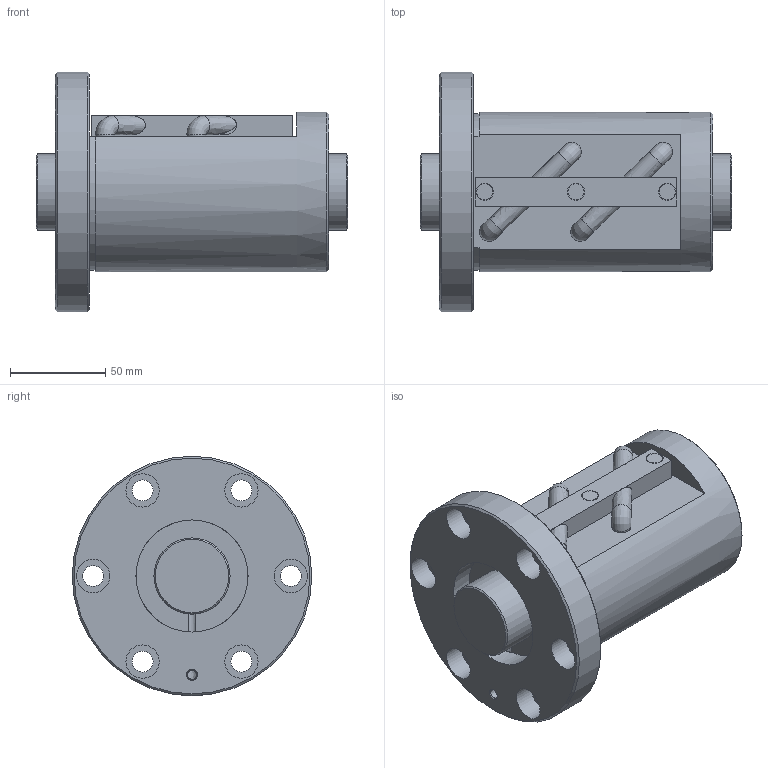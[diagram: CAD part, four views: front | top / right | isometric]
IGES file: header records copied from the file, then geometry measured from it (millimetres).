
Start section: Data from Parasolid IGES Translator 26.0.171, Copyright(c) 2006 Siemens PLM Software. All Rights Reserved.
Global section: file name: BIF4016V-5RRG0+164LC0_000.igs; native system: By Siemens PLM Incorporated; preprocessor: XPlus GENERIC/IGES 26.0.171; author: Noname; organization: Noname; date: 20240715.082435; units: millimetre
Bounding box: 164 x 126 x 126 mm (x, y, z)
Surface area: 115079.3 mm2 (no closed solid volume)
Topology: 0 solids, 0 shells, 97 faces, 444 edges, 401 vertices
Faces by surface type: revolution 56, extrusion 41
